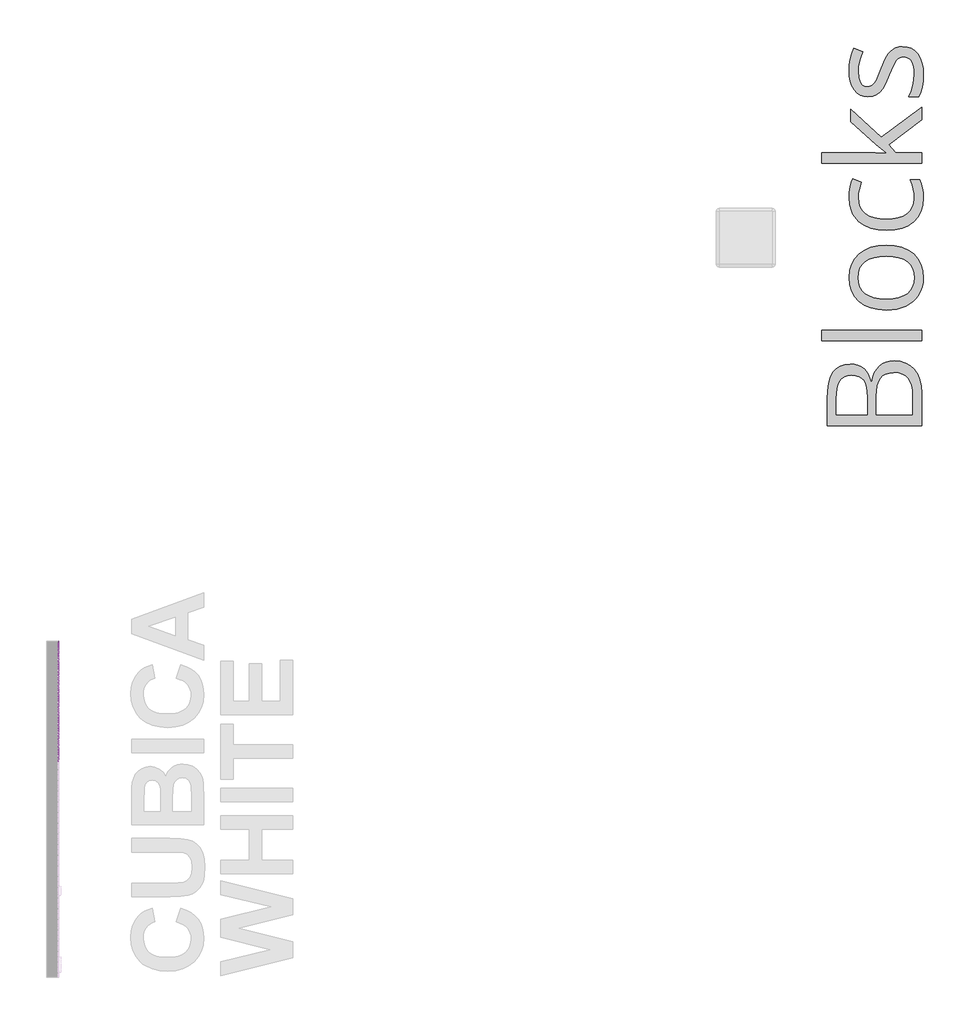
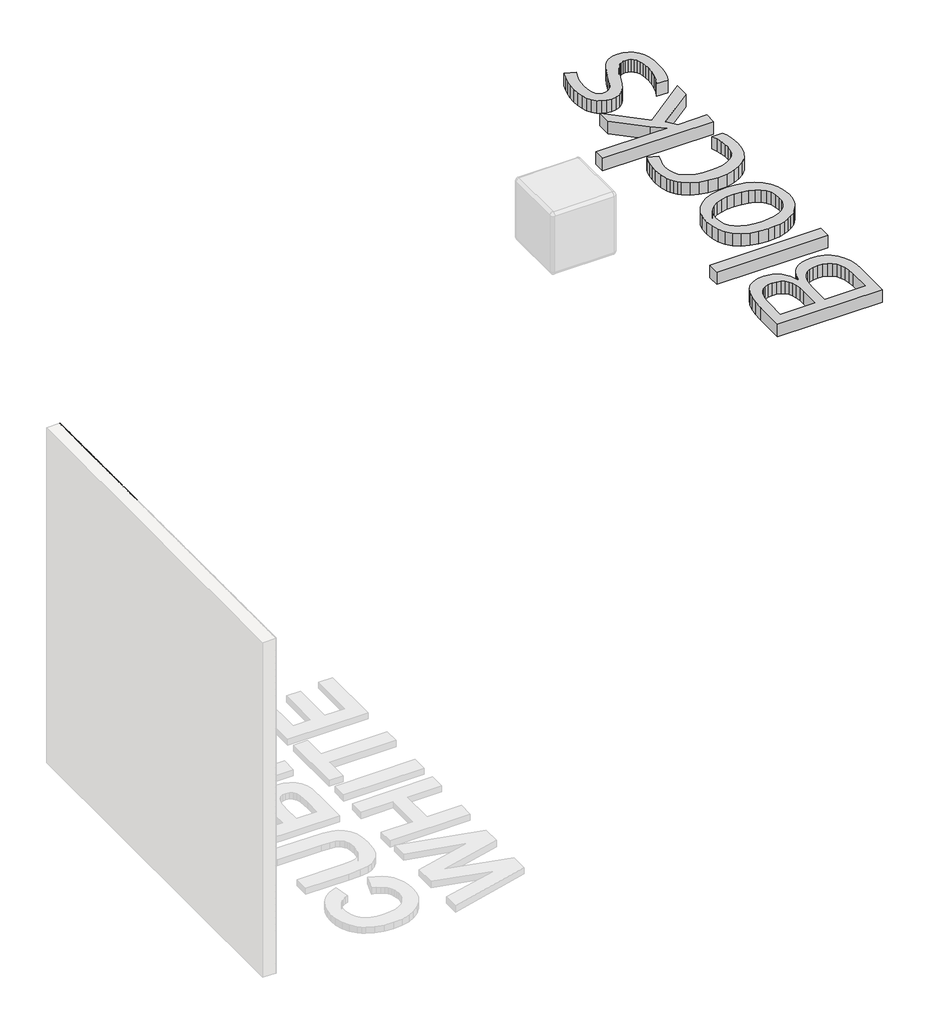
# One storey, part 121 of 121: 87 proxies.
"""IFC4 building model written with IfcOpenShell, lengths in millimetres."""

from ifc_helpers import new_model, si_unit, origin, origin_with_axes, place, context, project, spatial, polyline, outline, extrude, transform, mapped, element, save
from components import generic_models_9bf73f6f, generic_models_336a48c1, generic_models_65d4feed, generic_models_3c364290, generic_models_b652511d, generic_models_3c04e8e5, generic_models_b212a934, generic_models_96c2da39, generic_models_61989c10

model = new_model("IFC4")

# Units and contexts
model_context = context("Model", 3, world=origin())
ifc_project = project(units=[si_unit("LENGTHUNIT", "METRE", prefix="MILLI")], contexts=[model_context])

# Site, building, storey
site = spatial("IfcSite", under=ifc_project)
building = spatial("IfcBuilding", under=site)
storey = spatial("IfcBuildingStorey", under=building, Name="PORTOBELLO - SHOWROOM", Elevation=0.0)

# Proxies
placement = place(None, origin())
generic_models_shape = generic_models_9bf73f6f(model_context)
element("IfcBuildingElementProxy", 1, Name="PBSHOP - CUBICA WHITE 4,8X8,3 : CUBICA WHITE - POSIÇÃO 03", ObjectType="PBSHOP - CUBICA WHITE 4,8X8,3 : CUBICA WHITE - POSIÇÃO 03", at=placement, inside=storey, context=model_context, shape_type="MappedRepresentation", body=[
    mapped(generic_models_shape, transform((150369.5341846, 21944.4377994, 2604.7567035), x_axis=(0.0, 1.0, 0.0), y_axis=(0.0, 0.0, 1.0), z_axis=(1.0, 0.0, 0.0))),
])
generic_models_2_shape = generic_models_336a48c1(model_context)
element("IfcBuildingElementProxy", 2, Name="PBSHOP - CUBICA WHITE 4,8X8,3 : CUBICA WHITE - POSIÇÃO 03", ObjectType="PBSHOP - CUBICA WHITE 4,8X8,3 : CUBICA WHITE - POSIÇÃO 03", at=placement, inside=storey, context=model_context, shape_type="MappedRepresentation", body=[
    mapped(generic_models_2_shape, transform((150369.5341846, 22035.2770686, 78.8482756), x_axis=(0.0, 1.0, 0.0), y_axis=(0.0, 0.0, 1.0), z_axis=(1.0, 0.0, 0.0))),
])
element("IfcBuildingElementProxy", 3, Name="PBSHOP - CUBICA WHITE 4,8X8,3 : CUBICA WHITE - POSIÇÃO 03", ObjectType="PBSHOP - CUBICA WHITE 4,8X8,3 : CUBICA WHITE - POSIÇÃO 03", at=placement, inside=storey, context=model_context, shape_type="MappedRepresentation", body=[
    mapped(generic_models_2_shape, transform((150369.5341846, 22035.2770686, 236.7175523), x_axis=(0.0, 1.0, 0.0), y_axis=(0.0, 0.0, 1.0), z_axis=(1.0, 0.0, 0.0))),
])
element("IfcBuildingElementProxy", 4, Name="PBSHOP - CUBICA WHITE 4,8X8,3 : CUBICA WHITE - POSIÇÃO 03", ObjectType="PBSHOP - CUBICA WHITE 4,8X8,3 : CUBICA WHITE - POSIÇÃO 03", at=placement, inside=storey, context=model_context, shape_type="MappedRepresentation", body=[
    mapped(generic_models_2_shape, transform((150369.5341846, 22035.2770686, 394.5868291), x_axis=(0.0, 1.0, 0.0), y_axis=(0.0, 0.0, 1.0), z_axis=(1.0, 0.0, 0.0))),
])
element("IfcBuildingElementProxy", 5, Name="PBSHOP - CUBICA WHITE 4,8X8,3 : CUBICA WHITE - POSIÇÃO 03", ObjectType="PBSHOP - CUBICA WHITE 4,8X8,3 : CUBICA WHITE - POSIÇÃO 03", at=placement, inside=storey, context=model_context, shape_type="MappedRepresentation", body=[
    mapped(generic_models_2_shape, transform((150369.5341846, 22035.2770686, 552.4561058), x_axis=(0.0, 1.0, 0.0), y_axis=(0.0, 0.0, 1.0), z_axis=(1.0, 0.0, 0.0))),
])
element("IfcBuildingElementProxy", 6, Name="PBSHOP - CUBICA WHITE 4,8X8,3 : CUBICA WHITE - POSIÇÃO 03", ObjectType="PBSHOP - CUBICA WHITE 4,8X8,3 : CUBICA WHITE - POSIÇÃO 03", at=placement, inside=storey, context=model_context, shape_type="MappedRepresentation", body=[
    mapped(generic_models_2_shape, transform((150369.5341846, 22035.2770686, 710.3253826), x_axis=(0.0, 1.0, 0.0), y_axis=(0.0, 0.0, 1.0), z_axis=(1.0, 0.0, 0.0))),
])
element("IfcBuildingElementProxy", 7, Name="PBSHOP - CUBICA WHITE 4,8X8,3 : CUBICA WHITE - POSIÇÃO 03", ObjectType="PBSHOP - CUBICA WHITE 4,8X8,3 : CUBICA WHITE - POSIÇÃO 03", at=placement, inside=storey, context=model_context, shape_type="MappedRepresentation", body=[
    mapped(generic_models_2_shape, transform((150369.5341846, 22035.2770686, 868.1946593), x_axis=(0.0, 1.0, 0.0), y_axis=(0.0, 0.0, 1.0), z_axis=(1.0, 0.0, 0.0))),
])
element("IfcBuildingElementProxy", 8, Name="PBSHOP - CUBICA WHITE 4,8X8,3 : CUBICA WHITE - POSIÇÃO 03", ObjectType="PBSHOP - CUBICA WHITE 4,8X8,3 : CUBICA WHITE - POSIÇÃO 03", at=placement, inside=storey, context=model_context, shape_type="MappedRepresentation", body=[
    mapped(generic_models_2_shape, transform((150369.5341846, 22035.2770686, 1026.0639361), x_axis=(0.0, 1.0, 0.0), y_axis=(0.0, 0.0, 1.0), z_axis=(1.0, 0.0, 0.0))),
])
element("IfcBuildingElementProxy", 9, Name="PBSHOP - CUBICA WHITE 4,8X8,3 : CUBICA WHITE - POSIÇÃO 03", ObjectType="PBSHOP - CUBICA WHITE 4,8X8,3 : CUBICA WHITE - POSIÇÃO 03", at=placement, inside=storey, context=model_context, shape_type="MappedRepresentation", body=[
    mapped(generic_models_2_shape, transform((150369.5341846, 22035.2770686, 1183.9332128), x_axis=(0.0, 1.0, 0.0), y_axis=(0.0, 0.0, 1.0), z_axis=(1.0, 0.0, 0.0))),
])
element("IfcBuildingElementProxy", 10, Name="PBSHOP - CUBICA WHITE 4,8X8,3 : CUBICA WHITE - POSIÇÃO 03", ObjectType="PBSHOP - CUBICA WHITE 4,8X8,3 : CUBICA WHITE - POSIÇÃO 03", at=placement, inside=storey, context=model_context, shape_type="MappedRepresentation", body=[
    mapped(generic_models_2_shape, transform((150369.5341846, 22035.2770686, 1341.8024896), x_axis=(0.0, 1.0, 0.0), y_axis=(0.0, 0.0, 1.0), z_axis=(1.0, 0.0, 0.0))),
])
element("IfcBuildingElementProxy", 11, Name="PBSHOP - CUBICA WHITE 4,8X8,3 : CUBICA WHITE - POSIÇÃO 03", ObjectType="PBSHOP - CUBICA WHITE 4,8X8,3 : CUBICA WHITE - POSIÇÃO 03", at=placement, inside=storey, context=model_context, shape_type="MappedRepresentation", body=[
    mapped(generic_models_2_shape, transform((150369.5341846, 22035.2770686, 1499.6717663), x_axis=(0.0, 1.0, 0.0), y_axis=(0.0, 0.0, 1.0), z_axis=(1.0, 0.0, 0.0))),
])
element("IfcBuildingElementProxy", 12, Name="PBSHOP - CUBICA WHITE 4,8X8,3 : CUBICA WHITE - POSIÇÃO 03", ObjectType="PBSHOP - CUBICA WHITE 4,8X8,3 : CUBICA WHITE - POSIÇÃO 03", at=placement, inside=storey, context=model_context, shape_type="MappedRepresentation", body=[
    mapped(generic_models_2_shape, transform((150369.5341846, 22035.2770686, 1657.5410431), x_axis=(0.0, 1.0, 0.0), y_axis=(0.0, 0.0, 1.0), z_axis=(1.0, 0.0, 0.0))),
])
element("IfcBuildingElementProxy", 13, Name="PBSHOP - CUBICA WHITE 4,8X8,3 : CUBICA WHITE - POSIÇÃO 03", ObjectType="PBSHOP - CUBICA WHITE 4,8X8,3 : CUBICA WHITE - POSIÇÃO 03", at=placement, inside=storey, context=model_context, shape_type="MappedRepresentation", body=[
    mapped(generic_models_2_shape, transform((150369.5341846, 22035.2770686, 1815.4103198), x_axis=(0.0, 1.0, 0.0), y_axis=(0.0, 0.0, 1.0), z_axis=(1.0, 0.0, 0.0))),
])
element("IfcBuildingElementProxy", 14, Name="PBSHOP - CUBICA WHITE 4,8X8,3 : CUBICA WHITE - POSIÇÃO 03", ObjectType="PBSHOP - CUBICA WHITE 4,8X8,3 : CUBICA WHITE - POSIÇÃO 03", at=placement, inside=storey, context=model_context, shape_type="MappedRepresentation", body=[
    mapped(generic_models_2_shape, transform((150369.5341846, 22035.2770686, 1973.2795966), x_axis=(0.0, 1.0, 0.0), y_axis=(0.0, 0.0, 1.0), z_axis=(1.0, 0.0, 0.0))),
])
element("IfcBuildingElementProxy", 15, Name="PBSHOP - CUBICA WHITE 4,8X8,3 : CUBICA WHITE - POSIÇÃO 03", ObjectType="PBSHOP - CUBICA WHITE 4,8X8,3 : CUBICA WHITE - POSIÇÃO 03", at=placement, inside=storey, context=model_context, shape_type="MappedRepresentation", body=[
    mapped(generic_models_2_shape, transform((150369.5341846, 22035.2770686, 2131.1488733), x_axis=(0.0, 1.0, 0.0), y_axis=(0.0, 0.0, 1.0), z_axis=(1.0, 0.0, 0.0))),
])
element("IfcBuildingElementProxy", 16, Name="PBSHOP - CUBICA WHITE 4,8X8,3 : CUBICA WHITE - POSIÇÃO 03", ObjectType="PBSHOP - CUBICA WHITE 4,8X8,3 : CUBICA WHITE - POSIÇÃO 03", at=placement, inside=storey, context=model_context, shape_type="MappedRepresentation", body=[
    mapped(generic_models_2_shape, transform((150369.5341846, 22035.2770686, 2289.0181501), x_axis=(0.0, 1.0, 0.0), y_axis=(0.0, 0.0, 1.0), z_axis=(1.0, 0.0, 0.0))),
])
element("IfcBuildingElementProxy", 17, Name="PBSHOP - CUBICA WHITE 4,8X8,3 : CUBICA WHITE - POSIÇÃO 03", ObjectType="PBSHOP - CUBICA WHITE 4,8X8,3 : CUBICA WHITE - POSIÇÃO 03", at=placement, inside=storey, context=model_context, shape_type="MappedRepresentation", body=[
    mapped(generic_models_2_shape, transform((150369.5341846, 22035.2770686, 2446.8874268), x_axis=(0.0, 1.0, 0.0), y_axis=(0.0, 0.0, 1.0), z_axis=(1.0, 0.0, 0.0))),
])
element("IfcBuildingElementProxy", 18, Name="PBSHOP - CUBICA WHITE 4,8X8,3 : CUBICA WHITE - POSIÇÃO 03", ObjectType="PBSHOP - CUBICA WHITE 4,8X8,3 : CUBICA WHITE - POSIÇÃO 03", at=placement, inside=storey, context=model_context, shape_type="MappedRepresentation", body=[
    mapped(generic_models_2_shape, transform((150369.5341846, 22035.2770686, 2604.7567035), x_axis=(0.0, 1.0, 0.0), y_axis=(0.0, 0.0, 1.0), z_axis=(1.0, 0.0, 0.0))),
])
generic_models_3_shape = generic_models_65d4feed(model_context)
element("IfcBuildingElementProxy", 19, Name="PBSHOP - CUBICA WHITE 4,8X8,3 : CUBICA WHITE - POSIÇÃO 01", ObjectType="PBSHOP - CUBICA WHITE 4,8X8,3 : CUBICA WHITE - POSIÇÃO 01", at=placement, inside=storey, context=model_context, shape_type="MappedRepresentation", body=[
    mapped(generic_models_3_shape, transform((150369.5341846, 21013.3331304, 2723.1998715), x_axis=(0.0, 1.0, 0.0), y_axis=(0.0, 0.0, 1.0), z_axis=(1.0, 0.0, 0.0))),
])
element("IfcBuildingElementProxy", 20, Name="PBSHOP - CUBICA WHITE 4,8X8,3 : CUBICA WHITE - POSIÇÃO 01", ObjectType="PBSHOP - CUBICA WHITE 4,8X8,3 : CUBICA WHITE - POSIÇÃO 01", at=placement, inside=storey, context=model_context, shape_type="MappedRepresentation", body=[
    mapped(generic_models_3_shape, transform((150369.5341846, 21104.1723997, 2723.1998715), x_axis=(0.0, 1.0, 0.0), y_axis=(0.0, 0.0, 1.0), z_axis=(1.0, 0.0, 0.0))),
])
element("IfcBuildingElementProxy", 21, Name="PBSHOP - CUBICA WHITE 4,8X8,3 : CUBICA WHITE - POSIÇÃO 01", ObjectType="PBSHOP - CUBICA WHITE 4,8X8,3 : CUBICA WHITE - POSIÇÃO 01", at=placement, inside=storey, context=model_context, shape_type="MappedRepresentation", body=[
    mapped(generic_models_3_shape, transform((150369.5341846, 21195.0116689, 2723.1998715), x_axis=(0.0, 1.0, 0.0), y_axis=(0.0, 0.0, 1.0), z_axis=(1.0, 0.0, 0.0))),
])
element("IfcBuildingElementProxy", 22, Name="PBSHOP - CUBICA WHITE 4,8X8,3 : CUBICA WHITE - POSIÇÃO 01", ObjectType="PBSHOP - CUBICA WHITE 4,8X8,3 : CUBICA WHITE - POSIÇÃO 01", at=placement, inside=storey, context=model_context, shape_type="MappedRepresentation", body=[
    mapped(generic_models_3_shape, transform((150369.5341846, 21285.8509382, 2723.1998715), x_axis=(0.0, 1.0, 0.0), y_axis=(0.0, 0.0, 1.0), z_axis=(1.0, 0.0, 0.0))),
])
element("IfcBuildingElementProxy", 23, Name="PBSHOP - CUBICA WHITE 4,8X8,3 : CUBICA WHITE - POSIÇÃO 01", ObjectType="PBSHOP - CUBICA WHITE 4,8X8,3 : CUBICA WHITE - POSIÇÃO 01", at=placement, inside=storey, context=model_context, shape_type="MappedRepresentation", body=[
    mapped(generic_models_3_shape, transform((150369.5341846, 21376.6902074, 2723.1998715), x_axis=(0.0, 1.0, 0.0), y_axis=(0.0, 0.0, 1.0), z_axis=(1.0, 0.0, 0.0))),
])
element("IfcBuildingElementProxy", 24, Name="PBSHOP - CUBICA WHITE 4,8X8,3 : CUBICA WHITE - POSIÇÃO 01", ObjectType="PBSHOP - CUBICA WHITE 4,8X8,3 : CUBICA WHITE - POSIÇÃO 01", at=placement, inside=storey, context=model_context, shape_type="MappedRepresentation", body=[
    mapped(generic_models_3_shape, transform((150369.5341846, 21467.5294767, 2723.1998715), x_axis=(0.0, 1.0, 0.0), y_axis=(0.0, 0.0, 1.0), z_axis=(1.0, 0.0, 0.0))),
])
element("IfcBuildingElementProxy", 25, Name="PBSHOP - CUBICA WHITE 4,8X8,3 : CUBICA WHITE - POSIÇÃO 01", ObjectType="PBSHOP - CUBICA WHITE 4,8X8,3 : CUBICA WHITE - POSIÇÃO 01", at=placement, inside=storey, context=model_context, shape_type="MappedRepresentation", body=[
    mapped(generic_models_3_shape, transform((150369.5341846, 21558.3687459, 2723.1998715), x_axis=(0.0, 1.0, 0.0), y_axis=(0.0, 0.0, 1.0), z_axis=(1.0, 0.0, 0.0))),
])
element("IfcBuildingElementProxy", 26, Name="PBSHOP - CUBICA WHITE 4,8X8,3 : CUBICA WHITE - POSIÇÃO 01", ObjectType="PBSHOP - CUBICA WHITE 4,8X8,3 : CUBICA WHITE - POSIÇÃO 01", at=placement, inside=storey, context=model_context, shape_type="MappedRepresentation", body=[
    mapped(generic_models_3_shape, transform((150369.5341846, 21649.2080152, 2723.1998715), x_axis=(0.0, 1.0, 0.0), y_axis=(0.0, 0.0, 1.0), z_axis=(1.0, 0.0, 0.0))),
])
element("IfcBuildingElementProxy", 27, Name="PBSHOP - CUBICA WHITE 4,8X8,3 : CUBICA WHITE - POSIÇÃO 01", ObjectType="PBSHOP - CUBICA WHITE 4,8X8,3 : CUBICA WHITE - POSIÇÃO 01", at=placement, inside=storey, context=model_context, shape_type="MappedRepresentation", body=[
    mapped(generic_models_3_shape, transform((150369.5341846, 21740.0472844, 2723.1998715), x_axis=(0.0, 1.0, 0.0), y_axis=(0.0, 0.0, 1.0), z_axis=(1.0, 0.0, 0.0))),
])
element("IfcBuildingElementProxy", 28, Name="PBSHOP - CUBICA WHITE 4,8X8,3 : CUBICA WHITE - POSIÇÃO 01", ObjectType="PBSHOP - CUBICA WHITE 4,8X8,3 : CUBICA WHITE - POSIÇÃO 01", at=placement, inside=storey, context=model_context, shape_type="MappedRepresentation", body=[
    mapped(generic_models_3_shape, transform((150369.5341846, 21830.8865536, 2723.1998715), x_axis=(0.0, 1.0, 0.0), y_axis=(0.0, 0.0, 1.0), z_axis=(1.0, 0.0, 0.0))),
])
element("IfcBuildingElementProxy", 29, Name="PBSHOP - CUBICA WHITE 4,8X8,3 : CUBICA WHITE - POSIÇÃO 01", ObjectType="PBSHOP - CUBICA WHITE 4,8X8,3 : CUBICA WHITE - POSIÇÃO 01", at=placement, inside=storey, context=model_context, shape_type="MappedRepresentation", body=[
    mapped(generic_models_3_shape, transform((150369.5341846, 21921.7258229, 2723.1998715), x_axis=(0.0, 1.0, 0.0), y_axis=(0.0, 0.0, 1.0), z_axis=(1.0, 0.0, 0.0))),
])
generic_models_4_shape = generic_models_3c364290(model_context)
element("IfcBuildingElementProxy", 30, Name="PBSHOP - CUBICA WHITE 4,8X8,3 : CUBICA WHITE - POSIÇÃO 01", ObjectType="PBSHOP - CUBICA WHITE 4,8X8,3 : CUBICA WHITE - POSIÇÃO 01", at=placement, inside=storey, context=model_context, shape_type="MappedRepresentation", body=[
    mapped(generic_models_4_shape, transform((150369.5341846, 21058.7570834, 2723.1998715), x_axis=(0.0, -1.0, 0.0), y_axis=(0.0, 0.0, -1.0), z_axis=(1.0, 0.0, 0.0))),
])
element("IfcBuildingElementProxy", 31, Name="PBSHOP - CUBICA WHITE 4,8X8,3 : CUBICA WHITE - POSIÇÃO 01", ObjectType="PBSHOP - CUBICA WHITE 4,8X8,3 : CUBICA WHITE - POSIÇÃO 01", at=placement, inside=storey, context=model_context, shape_type="MappedRepresentation", body=[
    mapped(generic_models_4_shape, transform((150369.5341846, 21149.5963526, 2723.1998715), x_axis=(0.0, -1.0, 0.0), y_axis=(0.0, 0.0, -1.0), z_axis=(1.0, 0.0, 0.0))),
])
element("IfcBuildingElementProxy", 32, Name="PBSHOP - CUBICA WHITE 4,8X8,3 : CUBICA WHITE - POSIÇÃO 01", ObjectType="PBSHOP - CUBICA WHITE 4,8X8,3 : CUBICA WHITE - POSIÇÃO 01", at=placement, inside=storey, context=model_context, shape_type="MappedRepresentation", body=[
    mapped(generic_models_4_shape, transform((150369.5341846, 21240.4356219, 2723.1998715), x_axis=(0.0, -1.0, 0.0), y_axis=(0.0, 0.0, -1.0), z_axis=(1.0, 0.0, 0.0))),
])
element("IfcBuildingElementProxy", 33, Name="PBSHOP - CUBICA WHITE 4,8X8,3 : CUBICA WHITE - POSIÇÃO 01", ObjectType="PBSHOP - CUBICA WHITE 4,8X8,3 : CUBICA WHITE - POSIÇÃO 01", at=placement, inside=storey, context=model_context, shape_type="MappedRepresentation", body=[
    mapped(generic_models_4_shape, transform((150369.5341846, 21331.2748911, 2723.1998715), x_axis=(0.0, -1.0, 0.0), y_axis=(0.0, 0.0, -1.0), z_axis=(1.0, 0.0, 0.0))),
])
element("IfcBuildingElementProxy", 34, Name="PBSHOP - CUBICA WHITE 4,8X8,3 : CUBICA WHITE - POSIÇÃO 01", ObjectType="PBSHOP - CUBICA WHITE 4,8X8,3 : CUBICA WHITE - POSIÇÃO 01", at=placement, inside=storey, context=model_context, shape_type="MappedRepresentation", body=[
    mapped(generic_models_4_shape, transform((150369.5341846, 21422.1141604, 2723.1998715), x_axis=(0.0, -1.0, 0.0), y_axis=(0.0, 0.0, -1.0), z_axis=(1.0, 0.0, 0.0))),
])
element("IfcBuildingElementProxy", 35, Name="PBSHOP - CUBICA WHITE 4,8X8,3 : CUBICA WHITE - POSIÇÃO 01", ObjectType="PBSHOP - CUBICA WHITE 4,8X8,3 : CUBICA WHITE - POSIÇÃO 01", at=placement, inside=storey, context=model_context, shape_type="MappedRepresentation", body=[
    mapped(generic_models_4_shape, transform((150369.5341846, 21512.9534296, 2723.1998715), x_axis=(0.0, -1.0, 0.0), y_axis=(0.0, 0.0, -1.0), z_axis=(1.0, 0.0, 0.0))),
])
element("IfcBuildingElementProxy", 36, Name="PBSHOP - CUBICA WHITE 4,8X8,3 : CUBICA WHITE - POSIÇÃO 01", ObjectType="PBSHOP - CUBICA WHITE 4,8X8,3 : CUBICA WHITE - POSIÇÃO 01", at=placement, inside=storey, context=model_context, shape_type="MappedRepresentation", body=[
    mapped(generic_models_4_shape, transform((150369.5341846, 21603.7926989, 2723.1998715), x_axis=(0.0, -1.0, 0.0), y_axis=(0.0, 0.0, -1.0), z_axis=(1.0, 0.0, 0.0))),
])
element("IfcBuildingElementProxy", 37, Name="PBSHOP - CUBICA WHITE 4,8X8,3 : CUBICA WHITE - POSIÇÃO 01", ObjectType="PBSHOP - CUBICA WHITE 4,8X8,3 : CUBICA WHITE - POSIÇÃO 01", at=placement, inside=storey, context=model_context, shape_type="MappedRepresentation", body=[
    mapped(generic_models_4_shape, transform((150369.5341846, 21694.6319681, 2723.1998715), x_axis=(0.0, -1.0, 0.0), y_axis=(0.0, 0.0, -1.0), z_axis=(1.0, 0.0, 0.0))),
])
element("IfcBuildingElementProxy", 38, Name="PBSHOP - CUBICA WHITE 4,8X8,3 : CUBICA WHITE - POSIÇÃO 01", ObjectType="PBSHOP - CUBICA WHITE 4,8X8,3 : CUBICA WHITE - POSIÇÃO 01", at=placement, inside=storey, context=model_context, shape_type="MappedRepresentation", body=[
    mapped(generic_models_4_shape, transform((150369.5341846, 21785.4712374, 2723.1998715), x_axis=(0.0, -1.0, 0.0), y_axis=(0.0, 0.0, -1.0), z_axis=(1.0, 0.0, 0.0))),
])
element("IfcBuildingElementProxy", 39, Name="PBSHOP - CUBICA WHITE 4,8X8,3 : CUBICA WHITE - POSIÇÃO 01", ObjectType="PBSHOP - CUBICA WHITE 4,8X8,3 : CUBICA WHITE - POSIÇÃO 01", at=placement, inside=storey, context=model_context, shape_type="MappedRepresentation", body=[
    mapped(generic_models_4_shape, transform((150369.5341846, 21876.3105066, 2723.1998715), x_axis=(0.0, -1.0, 0.0), y_axis=(0.0, 0.0, -1.0), z_axis=(1.0, 0.0, 0.0))),
])
element("IfcBuildingElementProxy", 40, Name="PBSHOP - CUBICA WHITE 4,8X8,3 : CUBICA WHITE - POSIÇÃO 01", ObjectType="PBSHOP - CUBICA WHITE 4,8X8,3 : CUBICA WHITE - POSIÇÃO 01", at=placement, inside=storey, context=model_context, shape_type="MappedRepresentation", body=[
    mapped(generic_models_4_shape, transform((150369.5341846, 21967.1497758, 2723.1998715), x_axis=(0.0, -1.0, 0.0), y_axis=(0.0, 0.0, -1.0), z_axis=(1.0, 0.0, 0.0))),
])
generic_models_5_shape = generic_models_b652511d(model_context)
element("IfcBuildingElementProxy", 41, Name="PBSHOP - CUBICA WHITE 4,8X8,3 : CUBICA WHITE - POSIÇÃO 03", ObjectType="PBSHOP - CUBICA WHITE 4,8X8,3 : CUBICA WHITE - POSIÇÃO 03", at=placement, inside=storey, context=model_context, shape_type="MappedRepresentation", body=[
    mapped(generic_models_5_shape, transform((150369.5341846, 21081.4647415, 2683.6913419), x_axis=(0.0, 1.0, 0.0), y_axis=(0.0, 0.0, 1.0), z_axis=(1.0, 0.0, 0.0))),
])
element("IfcBuildingElementProxy", 42, Name="PBSHOP - CUBICA WHITE 4,8X8,3 : CUBICA WHITE - POSIÇÃO 03", ObjectType="PBSHOP - CUBICA WHITE 4,8X8,3 : CUBICA WHITE - POSIÇÃO 03", at=placement, inside=storey, context=model_context, shape_type="MappedRepresentation", body=[
    mapped(generic_models_5_shape, transform((150369.5341846, 21172.3040108, 2683.6913419), x_axis=(0.0, 1.0, 0.0), y_axis=(0.0, 0.0, 1.0), z_axis=(1.0, 0.0, 0.0))),
])
element("IfcBuildingElementProxy", 43, Name="PBSHOP - CUBICA WHITE 4,8X8,3 : CUBICA WHITE - POSIÇÃO 03", ObjectType="PBSHOP - CUBICA WHITE 4,8X8,3 : CUBICA WHITE - POSIÇÃO 03", at=placement, inside=storey, context=model_context, shape_type="MappedRepresentation", body=[
    mapped(generic_models_5_shape, transform((150369.5341846, 21263.14328, 2683.6913419), x_axis=(0.0, 1.0, 0.0), y_axis=(0.0, 0.0, 1.0), z_axis=(1.0, 0.0, 0.0))),
])
element("IfcBuildingElementProxy", 44, Name="PBSHOP - CUBICA WHITE 4,8X8,3 : CUBICA WHITE - POSIÇÃO 03", ObjectType="PBSHOP - CUBICA WHITE 4,8X8,3 : CUBICA WHITE - POSIÇÃO 03", at=placement, inside=storey, context=model_context, shape_type="MappedRepresentation", body=[
    mapped(generic_models_5_shape, transform((150369.5341846, 21353.9825493, 2683.6913419), x_axis=(0.0, 1.0, 0.0), y_axis=(0.0, 0.0, 1.0), z_axis=(1.0, 0.0, 0.0))),
])
element("IfcBuildingElementProxy", 45, Name="PBSHOP - CUBICA WHITE 4,8X8,3 : CUBICA WHITE - POSIÇÃO 03", ObjectType="PBSHOP - CUBICA WHITE 4,8X8,3 : CUBICA WHITE - POSIÇÃO 03", at=placement, inside=storey, context=model_context, shape_type="MappedRepresentation", body=[
    mapped(generic_models_5_shape, transform((150369.5341846, 21444.8218185, 2683.6913419), x_axis=(0.0, 1.0, 0.0), y_axis=(0.0, 0.0, 1.0), z_axis=(1.0, 0.0, 0.0))),
])
element("IfcBuildingElementProxy", 46, Name="PBSHOP - CUBICA WHITE 4,8X8,3 : CUBICA WHITE - POSIÇÃO 03", ObjectType="PBSHOP - CUBICA WHITE 4,8X8,3 : CUBICA WHITE - POSIÇÃO 03", at=placement, inside=storey, context=model_context, shape_type="MappedRepresentation", body=[
    mapped(generic_models_5_shape, transform((150369.5341846, 21535.6610878, 2683.6913419), x_axis=(0.0, 1.0, 0.0), y_axis=(0.0, 0.0, 1.0), z_axis=(1.0, 0.0, 0.0))),
])
element("IfcBuildingElementProxy", 47, Name="PBSHOP - CUBICA WHITE 4,8X8,3 : CUBICA WHITE - POSIÇÃO 03", ObjectType="PBSHOP - CUBICA WHITE 4,8X8,3 : CUBICA WHITE - POSIÇÃO 03", at=placement, inside=storey, context=model_context, shape_type="MappedRepresentation", body=[
    mapped(generic_models_5_shape, transform((150369.5341846, 21626.500357, 2683.6913419), x_axis=(0.0, 1.0, 0.0), y_axis=(0.0, 0.0, 1.0), z_axis=(1.0, 0.0, 0.0))),
])
element("IfcBuildingElementProxy", 48, Name="PBSHOP - CUBICA WHITE 4,8X8,3 : CUBICA WHITE - POSIÇÃO 03", ObjectType="PBSHOP - CUBICA WHITE 4,8X8,3 : CUBICA WHITE - POSIÇÃO 03", at=placement, inside=storey, context=model_context, shape_type="MappedRepresentation", body=[
    mapped(generic_models_5_shape, transform((150369.5341846, 21717.3396263, 2683.6913419), x_axis=(0.0, 1.0, 0.0), y_axis=(0.0, 0.0, 1.0), z_axis=(1.0, 0.0, 0.0))),
])
element("IfcBuildingElementProxy", 49, Name="PBSHOP - CUBICA WHITE 4,8X8,3 : CUBICA WHITE - POSIÇÃO 03", ObjectType="PBSHOP - CUBICA WHITE 4,8X8,3 : CUBICA WHITE - POSIÇÃO 03", at=placement, inside=storey, context=model_context, shape_type="MappedRepresentation", body=[
    mapped(generic_models_5_shape, transform((150369.5341846, 21808.1788955, 2683.6913419), x_axis=(0.0, 1.0, 0.0), y_axis=(0.0, 0.0, 1.0), z_axis=(1.0, 0.0, 0.0))),
])
element("IfcBuildingElementProxy", 50, Name="PBSHOP - CUBICA WHITE 4,8X8,3 : CUBICA WHITE - POSIÇÃO 03", ObjectType="PBSHOP - CUBICA WHITE 4,8X8,3 : CUBICA WHITE - POSIÇÃO 03", at=placement, inside=storey, context=model_context, shape_type="MappedRepresentation", body=[
    mapped(generic_models_5_shape, transform((150369.5341846, 21899.0181647, 2683.6913419), x_axis=(0.0, 1.0, 0.0), y_axis=(0.0, 0.0, 1.0), z_axis=(1.0, 0.0, 0.0))),
])
generic_models_6_shape = generic_models_3c04e8e5(model_context)
element("IfcBuildingElementProxy", 51, Name="PBSHOP - CUBICA WHITE 4,8X8,3 : CUBICA WHITE - POSIÇÃO 01", ObjectType="PBSHOP - CUBICA WHITE 4,8X8,3 : CUBICA WHITE - POSIÇÃO 01", at=placement, inside=storey, context=model_context, shape_type="MappedRepresentation", body=[
    mapped(generic_models_6_shape, transform((150369.5341846, 22012.5650921, 39.4221668), x_axis=(0.0, 1.0, 0.0), y_axis=(0.0, 0.0, 1.0), z_axis=(1.0, 0.0, 0.0))),
])
element("IfcBuildingElementProxy", 52, Name="PBSHOP - CUBICA WHITE 4,8X8,3 : CUBICA WHITE - POSIÇÃO 01", ObjectType="PBSHOP - CUBICA WHITE 4,8X8,3 : CUBICA WHITE - POSIÇÃO 01", at=placement, inside=storey, context=model_context, shape_type="MappedRepresentation", body=[
    mapped(generic_models_6_shape, transform((150369.5341846, 22012.5650921, 197.2914436), x_axis=(0.0, 1.0, 0.0), y_axis=(0.0, 0.0, 1.0), z_axis=(1.0, 0.0, 0.0))),
])
element("IfcBuildingElementProxy", 53, Name="PBSHOP - CUBICA WHITE 4,8X8,3 : CUBICA WHITE - POSIÇÃO 01", ObjectType="PBSHOP - CUBICA WHITE 4,8X8,3 : CUBICA WHITE - POSIÇÃO 01", at=placement, inside=storey, context=model_context, shape_type="MappedRepresentation", body=[
    mapped(generic_models_6_shape, transform((150369.5341846, 22012.5650921, 355.1607203), x_axis=(0.0, 1.0, 0.0), y_axis=(0.0, 0.0, 1.0), z_axis=(1.0, 0.0, 0.0))),
])
element("IfcBuildingElementProxy", 54, Name="PBSHOP - CUBICA WHITE 4,8X8,3 : CUBICA WHITE - POSIÇÃO 01", ObjectType="PBSHOP - CUBICA WHITE 4,8X8,3 : CUBICA WHITE - POSIÇÃO 01", at=placement, inside=storey, context=model_context, shape_type="MappedRepresentation", body=[
    mapped(generic_models_6_shape, transform((150369.5341846, 22012.5650921, 513.0299971), x_axis=(0.0, 1.0, 0.0), y_axis=(0.0, 0.0, 1.0), z_axis=(1.0, 0.0, 0.0))),
])
element("IfcBuildingElementProxy", 55, Name="PBSHOP - CUBICA WHITE 4,8X8,3 : CUBICA WHITE - POSIÇÃO 01", ObjectType="PBSHOP - CUBICA WHITE 4,8X8,3 : CUBICA WHITE - POSIÇÃO 01", at=placement, inside=storey, context=model_context, shape_type="MappedRepresentation", body=[
    mapped(generic_models_6_shape, transform((150369.5341846, 22012.5650921, 670.8992738), x_axis=(0.0, 1.0, 0.0), y_axis=(0.0, 0.0, 1.0), z_axis=(1.0, 0.0, 0.0))),
])
element("IfcBuildingElementProxy", 56, Name="PBSHOP - CUBICA WHITE 4,8X8,3 : CUBICA WHITE - POSIÇÃO 01", ObjectType="PBSHOP - CUBICA WHITE 4,8X8,3 : CUBICA WHITE - POSIÇÃO 01", at=placement, inside=storey, context=model_context, shape_type="MappedRepresentation", body=[
    mapped(generic_models_6_shape, transform((150369.5341846, 22012.5650921, 828.7685506), x_axis=(0.0, 1.0, 0.0), y_axis=(0.0, 0.0, 1.0), z_axis=(1.0, 0.0, 0.0))),
])
element("IfcBuildingElementProxy", 57, Name="PBSHOP - CUBICA WHITE 4,8X8,3 : CUBICA WHITE - POSIÇÃO 01", ObjectType="PBSHOP - CUBICA WHITE 4,8X8,3 : CUBICA WHITE - POSIÇÃO 01", at=placement, inside=storey, context=model_context, shape_type="MappedRepresentation", body=[
    mapped(generic_models_6_shape, transform((150369.5341846, 22012.5650921, 986.6378273), x_axis=(0.0, 1.0, 0.0), y_axis=(0.0, 0.0, 1.0), z_axis=(1.0, 0.0, 0.0))),
])
element("IfcBuildingElementProxy", 58, Name="PBSHOP - CUBICA WHITE 4,8X8,3 : CUBICA WHITE - POSIÇÃO 01", ObjectType="PBSHOP - CUBICA WHITE 4,8X8,3 : CUBICA WHITE - POSIÇÃO 01", at=placement, inside=storey, context=model_context, shape_type="MappedRepresentation", body=[
    mapped(generic_models_6_shape, transform((150369.5341846, 22012.5650921, 1144.507104), x_axis=(0.0, 1.0, 0.0), y_axis=(0.0, 0.0, 1.0), z_axis=(1.0, 0.0, 0.0))),
])
element("IfcBuildingElementProxy", 59, Name="PBSHOP - CUBICA WHITE 4,8X8,3 : CUBICA WHITE - POSIÇÃO 01", ObjectType="PBSHOP - CUBICA WHITE 4,8X8,3 : CUBICA WHITE - POSIÇÃO 01", at=placement, inside=storey, context=model_context, shape_type="MappedRepresentation", body=[
    mapped(generic_models_6_shape, transform((150369.5341846, 22012.5650921, 1302.3763808), x_axis=(0.0, 1.0, 0.0), y_axis=(0.0, 0.0, 1.0), z_axis=(1.0, 0.0, 0.0))),
])
element("IfcBuildingElementProxy", 60, Name="PBSHOP - CUBICA WHITE 4,8X8,3 : CUBICA WHITE - POSIÇÃO 01", ObjectType="PBSHOP - CUBICA WHITE 4,8X8,3 : CUBICA WHITE - POSIÇÃO 01", at=placement, inside=storey, context=model_context, shape_type="MappedRepresentation", body=[
    mapped(generic_models_6_shape, transform((150369.5341846, 22012.5650921, 1460.2456575), x_axis=(0.0, 1.0, 0.0), y_axis=(0.0, 0.0, 1.0), z_axis=(1.0, 0.0, 0.0))),
])
element("IfcBuildingElementProxy", 61, Name="PBSHOP - CUBICA WHITE 4,8X8,3 : CUBICA WHITE - POSIÇÃO 01", ObjectType="PBSHOP - CUBICA WHITE 4,8X8,3 : CUBICA WHITE - POSIÇÃO 01", at=placement, inside=storey, context=model_context, shape_type="MappedRepresentation", body=[
    mapped(generic_models_6_shape, transform((150369.5341846, 22012.5650921, 1618.1149343), x_axis=(0.0, 1.0, 0.0), y_axis=(0.0, 0.0, 1.0), z_axis=(1.0, 0.0, 0.0))),
])
element("IfcBuildingElementProxy", 62, Name="PBSHOP - CUBICA WHITE 4,8X8,3 : CUBICA WHITE - POSIÇÃO 01", ObjectType="PBSHOP - CUBICA WHITE 4,8X8,3 : CUBICA WHITE - POSIÇÃO 01", at=placement, inside=storey, context=model_context, shape_type="MappedRepresentation", body=[
    mapped(generic_models_6_shape, transform((150369.5341846, 22012.5650921, 1775.984211), x_axis=(0.0, 1.0, 0.0), y_axis=(0.0, 0.0, 1.0), z_axis=(1.0, 0.0, 0.0))),
])
element("IfcBuildingElementProxy", 63, Name="PBSHOP - CUBICA WHITE 4,8X8,3 : CUBICA WHITE - POSIÇÃO 01", ObjectType="PBSHOP - CUBICA WHITE 4,8X8,3 : CUBICA WHITE - POSIÇÃO 01", at=placement, inside=storey, context=model_context, shape_type="MappedRepresentation", body=[
    mapped(generic_models_6_shape, transform((150369.5341846, 22012.5650921, 1933.8534878), x_axis=(0.0, 1.0, 0.0), y_axis=(0.0, 0.0, 1.0), z_axis=(1.0, 0.0, 0.0))),
])
element("IfcBuildingElementProxy", 64, Name="PBSHOP - CUBICA WHITE 4,8X8,3 : CUBICA WHITE - POSIÇÃO 01", ObjectType="PBSHOP - CUBICA WHITE 4,8X8,3 : CUBICA WHITE - POSIÇÃO 01", at=placement, inside=storey, context=model_context, shape_type="MappedRepresentation", body=[
    mapped(generic_models_6_shape, transform((150369.5341846, 22012.5650921, 2091.7227645), x_axis=(0.0, 1.0, 0.0), y_axis=(0.0, 0.0, 1.0), z_axis=(1.0, 0.0, 0.0))),
])
element("IfcBuildingElementProxy", 65, Name="PBSHOP - CUBICA WHITE 4,8X8,3 : CUBICA WHITE - POSIÇÃO 01", ObjectType="PBSHOP - CUBICA WHITE 4,8X8,3 : CUBICA WHITE - POSIÇÃO 01", at=placement, inside=storey, context=model_context, shape_type="MappedRepresentation", body=[
    mapped(generic_models_6_shape, transform((150369.5341846, 22012.5650921, 2249.5920413), x_axis=(0.0, 1.0, 0.0), y_axis=(0.0, 0.0, 1.0), z_axis=(1.0, 0.0, 0.0))),
])
element("IfcBuildingElementProxy", 66, Name="PBSHOP - CUBICA WHITE 4,8X8,3 : CUBICA WHITE - POSIÇÃO 01", ObjectType="PBSHOP - CUBICA WHITE 4,8X8,3 : CUBICA WHITE - POSIÇÃO 01", at=placement, inside=storey, context=model_context, shape_type="MappedRepresentation", body=[
    mapped(generic_models_6_shape, transform((150369.5341846, 22012.5650921, 2407.461318), x_axis=(0.0, 1.0, 0.0), y_axis=(0.0, 0.0, 1.0), z_axis=(1.0, 0.0, 0.0))),
])
element("IfcBuildingElementProxy", 67, Name="PBSHOP - CUBICA WHITE 4,8X8,3 : CUBICA WHITE - POSIÇÃO 01", ObjectType="PBSHOP - CUBICA WHITE 4,8X8,3 : CUBICA WHITE - POSIÇÃO 01", at=placement, inside=storey, context=model_context, shape_type="MappedRepresentation", body=[
    mapped(generic_models_6_shape, transform((150369.5341846, 22012.5650921, 2565.3305948), x_axis=(0.0, 1.0, 0.0), y_axis=(0.0, 0.0, 1.0), z_axis=(1.0, 0.0, 0.0))),
])
generic_models_7_shape = generic_models_b212a934(model_context)
element("IfcBuildingElementProxy", 68, Name="PBSHOP - CUBICA WHITE 4,8X8,3 : CUBICA WHITE - POSIÇÃO 01", ObjectType="PBSHOP - CUBICA WHITE 4,8X8,3 : CUBICA WHITE - POSIÇÃO 01", at=placement, inside=storey, context=model_context, shape_type="MappedRepresentation", body=[
    mapped(generic_models_7_shape, transform((150369.5341846, 22012.5650921, 2723.1998715), x_axis=(0.0, 1.0, 0.0), y_axis=(0.0, 0.0, 1.0), z_axis=(1.0, 0.0, 0.0))),
])
generic_models_8_shape = generic_models_96c2da39(model_context)
element("IfcBuildingElementProxy", 69, Name="PBSHOP - CUBICA WHITE 4,8X8,3 : CUBICA WHITE - POSIÇÃO 03", ObjectType="PBSHOP - CUBICA WHITE 4,8X8,3 : CUBICA WHITE - POSIÇÃO 03", at=placement, inside=storey, context=model_context, shape_type="MappedRepresentation", body=[
    mapped(generic_models_8_shape, transform((150369.5341846, 21989.857434, 2683.6913419), x_axis=(0.0, 1.0, 0.0), y_axis=(0.0, 0.0, 1.0), z_axis=(1.0, 0.0, 0.0))),
])
generic_models_9_shape = generic_models_61989c10(model_context)
element("IfcBuildingElementProxy", 70, Name="PBSHOP - CUBICA WHITE 4,8X8,3 : CUBICA WHITE - POSIÇÃO 01", ObjectType="PBSHOP - CUBICA WHITE 4,8X8,3 : CUBICA WHITE - POSIÇÃO 01", at=placement, inside=storey, context=model_context, shape_type="MappedRepresentation", body=[
    mapped(generic_models_9_shape, transform((150369.5341846, 22012.5694105, 118.3568052), x_axis=(0.0, -1.0, 0.0), y_axis=(0.0, 0.0, -1.0), z_axis=(1.0, 0.0, 0.0))),
])
element("IfcBuildingElementProxy", 71, Name="PBSHOP - CUBICA WHITE 4,8X8,3 : CUBICA WHITE - POSIÇÃO 01", ObjectType="PBSHOP - CUBICA WHITE 4,8X8,3 : CUBICA WHITE - POSIÇÃO 01", at=placement, inside=storey, context=model_context, shape_type="MappedRepresentation", body=[
    mapped(generic_models_9_shape, transform((150369.5341846, 22012.5694105, 276.2260819), x_axis=(0.0, -1.0, 0.0), y_axis=(0.0, 0.0, -1.0), z_axis=(1.0, 0.0, 0.0))),
])
element("IfcBuildingElementProxy", 72, Name="PBSHOP - CUBICA WHITE 4,8X8,3 : CUBICA WHITE - POSIÇÃO 01", ObjectType="PBSHOP - CUBICA WHITE 4,8X8,3 : CUBICA WHITE - POSIÇÃO 01", at=placement, inside=storey, context=model_context, shape_type="MappedRepresentation", body=[
    mapped(generic_models_9_shape, transform((150369.5341846, 22012.5694105, 434.0953587), x_axis=(0.0, -1.0, 0.0), y_axis=(0.0, 0.0, -1.0), z_axis=(1.0, 0.0, 0.0))),
])
element("IfcBuildingElementProxy", 73, Name="PBSHOP - CUBICA WHITE 4,8X8,3 : CUBICA WHITE - POSIÇÃO 01", ObjectType="PBSHOP - CUBICA WHITE 4,8X8,3 : CUBICA WHITE - POSIÇÃO 01", at=placement, inside=storey, context=model_context, shape_type="MappedRepresentation", body=[
    mapped(generic_models_9_shape, transform((150369.5341846, 22012.5694105, 591.9646354), x_axis=(0.0, -1.0, 0.0), y_axis=(0.0, 0.0, -1.0), z_axis=(1.0, 0.0, 0.0))),
])
element("IfcBuildingElementProxy", 74, Name="PBSHOP - CUBICA WHITE 4,8X8,3 : CUBICA WHITE - POSIÇÃO 01", ObjectType="PBSHOP - CUBICA WHITE 4,8X8,3 : CUBICA WHITE - POSIÇÃO 01", at=placement, inside=storey, context=model_context, shape_type="MappedRepresentation", body=[
    mapped(generic_models_9_shape, transform((150369.5341846, 22012.5694105, 749.8339122), x_axis=(0.0, -1.0, 0.0), y_axis=(0.0, 0.0, -1.0), z_axis=(1.0, 0.0, 0.0))),
])
element("IfcBuildingElementProxy", 75, Name="PBSHOP - CUBICA WHITE 4,8X8,3 : CUBICA WHITE - POSIÇÃO 01", ObjectType="PBSHOP - CUBICA WHITE 4,8X8,3 : CUBICA WHITE - POSIÇÃO 01", at=placement, inside=storey, context=model_context, shape_type="MappedRepresentation", body=[
    mapped(generic_models_9_shape, transform((150369.5341846, 22012.5694105, 907.7031889), x_axis=(0.0, -1.0, 0.0), y_axis=(0.0, 0.0, -1.0), z_axis=(1.0, 0.0, 0.0))),
])
element("IfcBuildingElementProxy", 76, Name="PBSHOP - CUBICA WHITE 4,8X8,3 : CUBICA WHITE - POSIÇÃO 01", ObjectType="PBSHOP - CUBICA WHITE 4,8X8,3 : CUBICA WHITE - POSIÇÃO 01", at=placement, inside=storey, context=model_context, shape_type="MappedRepresentation", body=[
    mapped(generic_models_9_shape, transform((150369.5341846, 22012.5694105, 1065.5724657), x_axis=(0.0, -1.0, 0.0), y_axis=(0.0, 0.0, -1.0), z_axis=(1.0, 0.0, 0.0))),
])
element("IfcBuildingElementProxy", 77, Name="PBSHOP - CUBICA WHITE 4,8X8,3 : CUBICA WHITE - POSIÇÃO 01", ObjectType="PBSHOP - CUBICA WHITE 4,8X8,3 : CUBICA WHITE - POSIÇÃO 01", at=placement, inside=storey, context=model_context, shape_type="MappedRepresentation", body=[
    mapped(generic_models_9_shape, transform((150369.5341846, 22012.5694105, 1223.4417424), x_axis=(0.0, -1.0, 0.0), y_axis=(0.0, 0.0, -1.0), z_axis=(1.0, 0.0, 0.0))),
])
element("IfcBuildingElementProxy", 78, Name="PBSHOP - CUBICA WHITE 4,8X8,3 : CUBICA WHITE - POSIÇÃO 01", ObjectType="PBSHOP - CUBICA WHITE 4,8X8,3 : CUBICA WHITE - POSIÇÃO 01", at=placement, inside=storey, context=model_context, shape_type="MappedRepresentation", body=[
    mapped(generic_models_9_shape, transform((150369.5341846, 22012.5694105, 1381.3110192), x_axis=(0.0, -1.0, 0.0), y_axis=(0.0, 0.0, -1.0), z_axis=(1.0, 0.0, 0.0))),
])
element("IfcBuildingElementProxy", 79, Name="PBSHOP - CUBICA WHITE 4,8X8,3 : CUBICA WHITE - POSIÇÃO 01", ObjectType="PBSHOP - CUBICA WHITE 4,8X8,3 : CUBICA WHITE - POSIÇÃO 01", at=placement, inside=storey, context=model_context, shape_type="MappedRepresentation", body=[
    mapped(generic_models_9_shape, transform((150369.5341846, 22012.5694105, 1539.1802959), x_axis=(0.0, -1.0, 0.0), y_axis=(0.0, 0.0, -1.0), z_axis=(1.0, 0.0, 0.0))),
])
element("IfcBuildingElementProxy", 80, Name="PBSHOP - CUBICA WHITE 4,8X8,3 : CUBICA WHITE - POSIÇÃO 01", ObjectType="PBSHOP - CUBICA WHITE 4,8X8,3 : CUBICA WHITE - POSIÇÃO 01", at=placement, inside=storey, context=model_context, shape_type="MappedRepresentation", body=[
    mapped(generic_models_9_shape, transform((150369.5341846, 22012.5694105, 1697.0495727), x_axis=(0.0, -1.0, 0.0), y_axis=(0.0, 0.0, -1.0), z_axis=(1.0, 0.0, 0.0))),
])
element("IfcBuildingElementProxy", 81, Name="PBSHOP - CUBICA WHITE 4,8X8,3 : CUBICA WHITE - POSIÇÃO 01", ObjectType="PBSHOP - CUBICA WHITE 4,8X8,3 : CUBICA WHITE - POSIÇÃO 01", at=placement, inside=storey, context=model_context, shape_type="MappedRepresentation", body=[
    mapped(generic_models_9_shape, transform((150369.5341846, 22012.5694105, 1854.9188494), x_axis=(0.0, -1.0, 0.0), y_axis=(0.0, 0.0, -1.0), z_axis=(1.0, 0.0, 0.0))),
])
element("IfcBuildingElementProxy", 82, Name="PBSHOP - CUBICA WHITE 4,8X8,3 : CUBICA WHITE - POSIÇÃO 01", ObjectType="PBSHOP - CUBICA WHITE 4,8X8,3 : CUBICA WHITE - POSIÇÃO 01", at=placement, inside=storey, context=model_context, shape_type="MappedRepresentation", body=[
    mapped(generic_models_9_shape, transform((150369.5341846, 22012.5694105, 2012.7881262), x_axis=(0.0, -1.0, 0.0), y_axis=(0.0, 0.0, -1.0), z_axis=(1.0, 0.0, 0.0))),
])
element("IfcBuildingElementProxy", 83, Name="PBSHOP - CUBICA WHITE 4,8X8,3 : CUBICA WHITE - POSIÇÃO 01", ObjectType="PBSHOP - CUBICA WHITE 4,8X8,3 : CUBICA WHITE - POSIÇÃO 01", at=placement, inside=storey, context=model_context, shape_type="MappedRepresentation", body=[
    mapped(generic_models_9_shape, transform((150369.5341846, 22012.5694105, 2170.6574029), x_axis=(0.0, -1.0, 0.0), y_axis=(0.0, 0.0, -1.0), z_axis=(1.0, 0.0, 0.0))),
])
element("IfcBuildingElementProxy", 84, Name="PBSHOP - CUBICA WHITE 4,8X8,3 : CUBICA WHITE - POSIÇÃO 01", ObjectType="PBSHOP - CUBICA WHITE 4,8X8,3 : CUBICA WHITE - POSIÇÃO 01", at=placement, inside=storey, context=model_context, shape_type="MappedRepresentation", body=[
    mapped(generic_models_9_shape, transform((150369.5341846, 22012.5694105, 2328.5266797), x_axis=(0.0, -1.0, 0.0), y_axis=(0.0, 0.0, -1.0), z_axis=(1.0, 0.0, 0.0))),
])
element("IfcBuildingElementProxy", 85, Name="PBSHOP - CUBICA WHITE 4,8X8,3 : CUBICA WHITE - POSIÇÃO 01", ObjectType="PBSHOP - CUBICA WHITE 4,8X8,3 : CUBICA WHITE - POSIÇÃO 01", at=placement, inside=storey, context=model_context, shape_type="MappedRepresentation", body=[
    mapped(generic_models_9_shape, transform((150369.5341846, 22012.5694105, 2486.3959564), x_axis=(0.0, -1.0, 0.0), y_axis=(0.0, 0.0, -1.0), z_axis=(1.0, 0.0, 0.0))),
])
element("IfcBuildingElementProxy", 86, Name="PBSHOP - CUBICA WHITE 4,8X8,3 : CUBICA WHITE - POSIÇÃO 01", ObjectType="PBSHOP - CUBICA WHITE 4,8X8,3 : CUBICA WHITE - POSIÇÃO 01", at=placement, inside=storey, context=model_context, shape_type="MappedRepresentation", body=[
    mapped(generic_models_9_shape, transform((150369.5341846, 22012.5694105, 2644.2652332), x_axis=(0.0, -1.0, 0.0), y_axis=(0.0, 0.0, -1.0), z_axis=(1.0, 0.0, 0.0))),
])
element("IfcBuildingElementProxy", 87, Name="80mm OpenSans", ObjectType="80mm OpenSans", at=placement, inside=storey, context=model_context, shape_type="SweptSolid", body=[
    extrude(outline(polyline([(156904.1001643, 23860.4699637), (156904.1001643, 24085.4530843), (156907.0371434, 24159.2831822), (156915.848081, 24222.1315319), (156930.5329768, 24273.9981334), (156951.091831, 24314.8829867), (156977.9903538, 24345.8527185), (157011.6942555, 24367.9739554), (157052.203536, 24381.2466976), (157099.5181953, 24385.670945), (157133.1770282, 24383.1996761), (157163.7261185, 24375.7858694), (157191.1654661, 24363.4295248), (157215.495071, 24346.1306423), (157236.2792689, 24324.0995428), (157253.0823953, 24297.546547), (157265.9044501, 24266.4716548), (157274.7454334, 24230.8748663), (157280.0334982, 24230.8748663), (157289.9486197, 24273.4084841), (157303.9499731, 24310.2709529), (157322.0375584, 24341.4622726), (157344.2113756, 24366.9824433), (157370.4714247, 24386.8314649), (157400.8177056, 24401.0093375), (157435.2502185, 24409.5160611), (157473.7689632, 24412.3516356), (157525.0046024, 24407.8372508), (157570.3061916, 24394.2940962), (157609.6737309, 24371.7221718), (157643.1072201, 24340.1214778), (157669.7653763, 24300.4234345), (157688.8069165, 24253.5594625), (157700.2318406, 24199.5295618), (157704.0401486, 24138.3337323), (157704.0401486, 23860.4699637), (156904.1001643, 23860.4699637)]), holes=[polyline([(157242.5363115, 23953.4918309), (157242.5363115, 24105.4035106), (157240.6058674, 24150.8853748), (157234.814535, 24189.5017684), (157225.1623145, 24221.2526916), (157211.6492057, 24246.1381443), (157193.5691319, 24264.909272), (157170.2160162, 24278.3172204), (157141.5898586, 24286.3619895), (157107.6906591, 24289.0435791), (157076.4880722, 24286.0540198), (157049.9425878, 24277.0853417), (157028.0542059, 24262.1375449), (157010.8229266, 24241.2106294), (156997.7830395, 24213.7787932), (156988.4688345, 24179.3162345), (156982.8803115, 24137.8229533), (156981.0174704, 24089.2989496), (156981.0174704, 23953.4918309), (157242.5363115, 23953.4918309)]), polyline([(157319.4536177, 23953.4918309), (157627.1228424, 23953.4918309), (157627.1228424, 24119.1044058), (157624.7116651, 24164.2106972), (157617.4781333, 24203.3829385), (157605.4222469, 24236.6211299), (157588.544006, 24263.9252713), (157566.5429523, 24285.2202482), (157539.1186276, 24300.430946), (157506.2710319, 24309.5573646), (157468.0001652, 24312.5995042), (157432.3057278, 24309.4897615), (157401.6589887, 24300.1605336), (157376.0599477, 24284.6118203), (157355.5086049, 24262.8436217), (157339.734548, 24234.7357546), (157328.4673645, 24200.1680355), (157321.7070544, 24159.1404646), (157319.4536177, 24111.6530418), (157319.4536177, 23953.4918309)])]), origin_with_axes(), (0.0, 0.0, 1.0), 100.0),
    extrude(outline(polyline([(157704.0401486, 24674.1108432), (157704.0401486, 24583.2522753), (156857.9497806, 24583.2522753), (156857.9497806, 24674.1108432), (157704.0401486, 24674.1108432)])), origin_with_axes(), (0.0, 0.0, 1.0), 100.0),
    extrude(outline(polyline([(157403.5819213, 25395.4509553), (157473.8966579, 25390.8314101), (157536.0539537, 25376.9727743), (157590.0538086, 25353.8750481), (157635.8962226, 25321.5382314), (157672.4394545, 25281.0740196), (157698.541763, 25233.5941083), (157714.2031481, 25179.0984973), (157719.4236098, 25117.5871867), (157717.0274555, 25078.4600141), (157709.8389924, 25041.601301), (157697.8582206, 25007.0110476), (157681.08514, 24974.6892538), (157659.8352319, 24945.2819048), (157634.4239773, 24919.4349858), (157604.8513763, 24897.1484968), (157571.1174288, 24878.4224378), (157533.7854941, 24863.5948243), (157493.4189313, 24853.0036718), (157450.0177403, 24846.6489803), (157403.5819213, 24844.5307498), (157333.2972305, 24849.1127377), (157271.2300722, 24862.8587016), (157217.3804464, 24885.7686414), (157171.7483531, 24917.8425572), (157135.415442, 24958.0588909), (157109.4633626, 25005.3960846), (157093.892115, 25059.8541383), (157088.7016991, 25121.433052), (157094.0122983, 25181.0664987), (157109.9440958, 25234.2551164), (157136.4970916, 25280.9989051), (157173.6712858, 25321.2978648), (157219.9042955, 25353.7398419), (157273.633738, 25376.9126827), (157334.8596133, 25390.8163871), (157403.5819213, 25395.4509553)]), holes=[polyline([(157402.8608216, 24938.9948164), (157457.9047688, 24941.8641925), (157505.9780852, 24950.4723207), (157547.0807707, 24964.819201), (157581.2128253, 24984.9048335), (157608.0287221, 25010.5489432), (157627.1829341, 25041.5712552), (157638.6754612, 25077.9717694), (157642.5063036, 25119.7504859), (157638.6904842, 25161.5442254), (157627.2430257, 25197.9898083), (157608.1639283, 25229.0872349), (157581.4531919, 25254.8365049), (157547.3962518, 25275.0272978), (157506.2785434, 25289.4492927), (157458.1000666, 25298.1024897), (157402.8608216, 25300.9868886), (157348.1849357, 25298.1024897), (157300.4947035, 25289.4492927), (157259.7901252, 25275.0272978), (157226.0712006, 25254.8365049), (157199.6233652, 25229.0121203), (157180.7320541, 25197.6893501), (157169.3972675, 25160.8681944), (157165.6190053, 25118.548653), (157169.3446873, 25076.8074938), (157180.5217334, 25040.5196514), (157199.1501435, 25009.6851258), (157225.2299176, 24984.3039171), (157258.6859412, 24964.4811855), (157299.4430997, 24950.3220916), (157347.5013932, 24941.8266352), (157402.8608216, 24938.9948164)])]), origin_with_axes(), (0.0, 0.0, 1.0), 100.0),
    extrude(outline(polyline([(157719.4236098, 25797.5842467), (157714.3383543, 25735.5546457), (157699.0825878, 25680.9463629), (157673.6563104, 25633.7593983), (157638.0595219, 25593.9937519), (157593.1635513, 25562.445638), (157539.8397274, 25539.911271), (157478.0880502, 25526.3906508), (157407.9085198, 25521.8837773), (157335.92624, 25526.4582539), (157272.61218, 25540.1816834), (157217.9663399, 25563.0540659), (157171.9887197, 25595.0754015), (157152.4683243, 25614.3441632), (157135.5506482, 25635.5546362), (157121.2356915, 25658.7068205), (157109.5234543, 25683.800716), (157093.9071379, 25739.8136411), (157088.7016991, 25803.5934113), (157090.92509, 25847.3100833), (157097.5952626, 25890.9666637), (157107.2700176, 25929.8760042), (157118.5071553, 25959.3509563), (157193.7418954, 25931.2280662), (157173.6712858, 25864.7667063), (157167.6320754, 25830.9050641), (157165.6190053, 25801.1897454), (157169.3784889, 25757.8674248), (157180.6569396, 25720.3214136), (157199.4543574, 25688.5517118), (157225.7707424, 25662.5583194), (157259.6060945, 25642.3412364), (157300.9604138, 25627.9004628), (157349.8337002, 25619.2359987), (157406.2259537, 25616.347844), (157459.9929535, 25619.1646399), (157507.1198264, 25627.6150275), (157547.6065726, 25641.6990069), (157581.4531919, 25661.4165781), (157608.1639283, 25686.6625806), (157627.2430257, 25717.3318542), (157638.6904842, 25753.4243988), (157642.5063036, 25794.9402143), (157640.4782106, 25833.1434779), (157634.3939315, 25871.7974288), (157624.2534663, 25910.9020671), (157610.0568151, 25950.4573928), (157689.1374205, 25950.4573928), (157702.3876283, 25918.0980417), (157711.8520625, 25881.8327336), (157717.530723, 25841.6614687), (157719.4236098, 25797.5842467)])), origin_with_axes(), (0.0, 0.0, 1.0), 100.0),
    extrude(outline(polyline([(157403.1011881, 26182.1707776), (157313.6848197, 26253.3192859), (157104.0851603, 26445.6125513), (157104.0851603, 26552.5756802), (157359.8352034, 26311.2476321), (157704.0401486, 26569.401341), (157704.0401486, 26460.0345462), (157427.1378463, 26249.7137871), (157484.825826, 26182.4111442), (157704.0401486, 26182.4111442), (157704.0401486, 26092.5140426), (156857.9497806, 26092.5140426), (156857.9497806, 26182.4111442), (157310.079321, 26182.4111442), (157403.1011881, 26177.8441792), (157403.1011881, 26182.1707776)])), origin_with_axes(), (0.0, 0.0, 1.0), 100.0),
    extrude(outline(polyline([(157542.273439, 27083.3050929), (157582.3771009, 27079.3766016), (157617.5983166, 27067.5911276), (157647.9370861, 27047.948671), (157673.3934094, 27020.4492318), (157693.5316221, 26985.8589784), (157707.9160597, 26944.9440793), (157716.5467223, 26897.7045345), (157719.4236098, 26844.140344), (157717.0499898, 26787.4588994), (157709.9291299, 26737.35749), (157698.0610299, 26693.8361158), (157681.4456899, 26656.8947768), (157596.3559199, 26656.8947768), (157615.495109, 26702.0236025), (157630.1274247, 26750.3973771), (157639.4115839, 26799.4321598), (157642.5063036, 26846.5440098), (157641.0791271, 26880.3981406), (157636.7975973, 26910.0909249), (157629.6617144, 26935.6223628), (157619.6714784, 26956.9924542), (157606.7517746, 26973.8706951), (157590.8274886, 26985.9265815), (157571.8986202, 26993.1601133), (157549.9651696, 26995.5712905), (157532.8240278, 26993.6558694), (157516.9748563, 26987.9096058), (157502.4176552, 26978.3324998), (157489.1524244, 26964.9245514), (157461.6304508, 26919.7656798), (157429.5415121, 26845.5825435), (157399.8562393, 26773.4124773), (157374.2571983, 26725.6396192), (157349.1088447, 26694.6022843), (157320.7756339, 26672.6387879), (157287.875458, 26659.568855), (157249.0262092, 26655.2122107), (157213.8425508, 26658.9679385), (157182.5648493, 26670.235122), (157155.1931048, 26689.0137612), (157131.7273173, 26715.3038561), (157112.9036093, 26748.1439404), (157099.4581036, 26786.5725476), (157091.3908002, 26830.5896779), (157088.7016991, 26880.1953313), (157091.1955024, 26928.6141746), (157098.6769123, 26976.5222389), (157111.1459287, 27023.9195243), (157128.6025517, 27070.8060307), (157202.8758255, 27038.1161755), (157186.5759666, 26993.6483579), (157174.9332103, 26951.3438395), (157167.9475566, 26911.2026203), (157165.6190053, 26873.2247004), (157170.756841, 26816.0775456), (157177.1791356, 26793.4981098), (157186.170348, 26774.9147684), (157197.4300201, 26760.4026361), (157210.6576936, 26750.0368272), (157225.8533684, 26743.8173419), (157243.0170446, 26741.7441801), (157265.7016408, 26744.8388999), (157284.7206466, 26754.1230591), (157301.4862157, 26770.3177576), (157317.4105017, 26794.144095), (157336.4295075, 26834.4655891), (157362.4792358, 26900.1457576), (157382.2193413, 26949.5185558), (157402.0195385, 26990.1930883), (157421.8798273, 27022.1693551), (157441.8002078, 27045.4473563), (157463.0426045, 27062.0101161), (157486.8689419, 27073.8406588), (157513.2792201, 27080.9389844), (157542.273439, 27083.3050929)])), origin_with_axes(), (0.0, 0.0, 1.0), 100.0),
])

save(model, "model.ifc")
